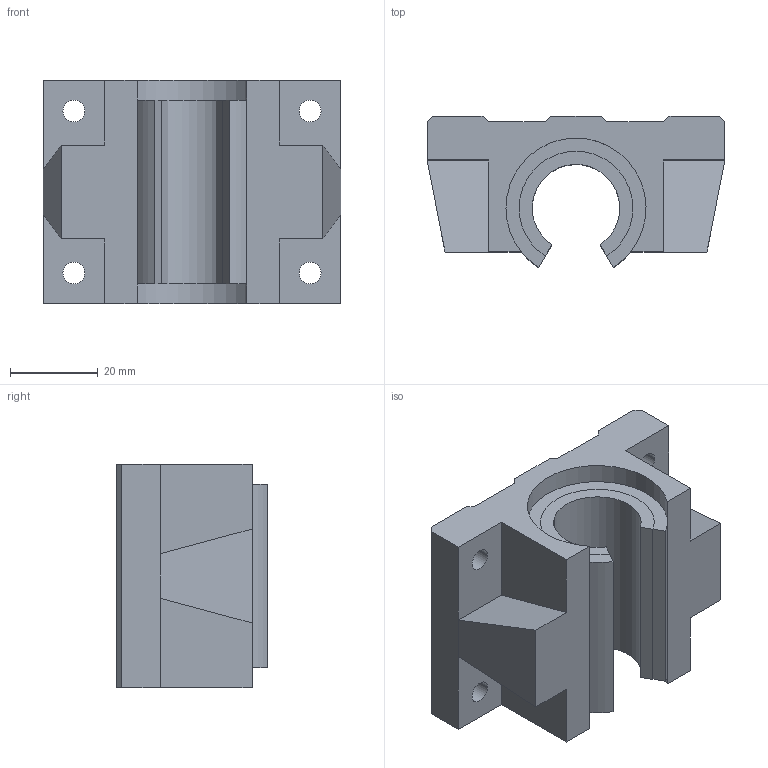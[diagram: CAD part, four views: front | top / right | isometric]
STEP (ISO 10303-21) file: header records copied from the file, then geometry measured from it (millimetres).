
FILE_DESCRIPTION((''),'2;1');
FILE_NAME('C:\Documents and Settings\ｿﾀﾀ蠑ｷ1\ｹﾙﾅﾁ ﾈｭｸ饅\ｺﾎﾇｰﾆﾄﾀﾏ\ﾁｦﾇｰ\TBR__UU\TBR20UU.stp','2005-06-15T17:36:32',('ｿﾀﾀ蠑ｷ1'),(''),'Autodesk Inventor 9','Autodesk Inventor 9','');
FILE_SCHEMA(('AUTOMOTIVE_DESIGN { 1 0 10303 214 1 1 1 1 }'));
Length unit declared in the file: millimetre
Products named in the file (1): TBR__
Bounding box: 68 x 34.54 x 51 mm (x, y, z)
Volume: 63796.2 mm3; surface area: 16639 mm2
Topology: 1 solids, 1 shells, 55 faces, 147 edges, 94 vertices
Faces by surface type: plane 33, bspline 14, cylinder 8
Entity records: 1842 total; most frequent: CARTESIAN_POINT 451, ORIENTED_EDGE 294, DIRECTION 265, EDGE_CURVE 147, VECTOR 113, LINE 113, VERTEX_POINT 94, AXIS2_PLACEMENT_3D 76
